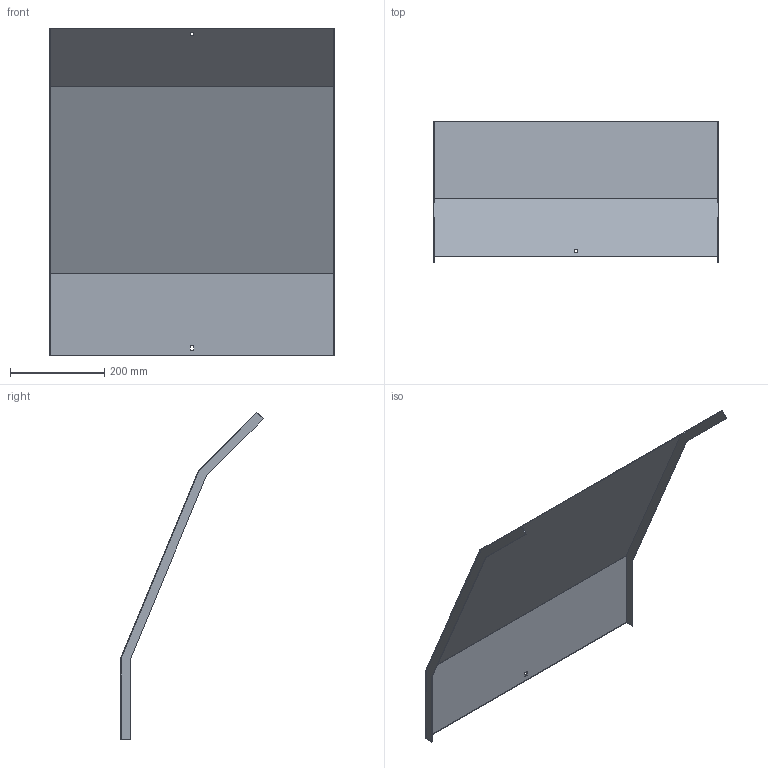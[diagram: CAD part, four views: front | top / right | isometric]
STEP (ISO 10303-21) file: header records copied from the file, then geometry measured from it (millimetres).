
FILE_DESCRIPTION (( 'STEP AP214' ), '1' );
FILE_NAME ('34N5D600.step', '2025-02-21T10:33:20', ( '' ), ( '' ), 'SwSTEP 2.0', 'SolidWorks 2023', '' );
FILE_SCHEMA (( 'AUTOMOTIVE_DESIGN' ));
Length unit declared in the file: millimetre
Products named in the file (1): 34N5D600
Bounding box: 603 x 301.7 x 694.23 mm (x, y, z)
Volume: 745606.5 mm3; surface area: 998442.8 mm2
Topology: 1 solids, 1 shells, 26 faces, 72 edges, 48 vertices
Faces by surface type: plane 26
Entity records: 847 total; most frequent: CARTESIAN_POINT 147, ORIENTED_EDGE 144, DIRECTION 126, LINE 72, VECTOR 72, EDGE_CURVE 72, VERTEX_POINT 48, EDGE_LOOP 30
